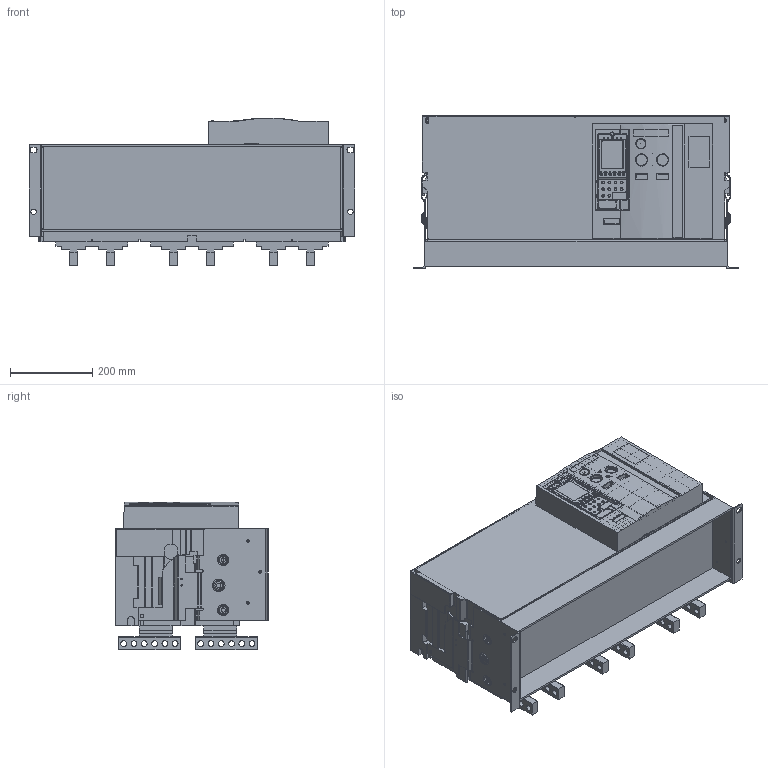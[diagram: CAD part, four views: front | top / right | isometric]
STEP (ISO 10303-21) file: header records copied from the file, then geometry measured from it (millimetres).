
FILE_DESCRIPTION (( 'STEP AP214' ), '1' );
FILE_NAME ('OptiMat A-S6-B-6300-3P-F-V.STEP', '2025-02-10T10:24:05', ( '' ), ( '' ), 'SwSTEP 2.0', 'SolidWorks 2018', '' );
FILE_SCHEMA (( 'AUTOMOTIVE_DESIGN' ));
Length unit declared in the file: millimetre
Products named in the file (1): OptiMat A-S6-B-6300-3P-F-V
Bounding box: 792 x 371.5 x 358.81 mm (x, y, z)
Volume: 58607586.5 mm3; surface area: 2413675.5 mm2
Topology: 8 solids, 115 shells, 5063 faces, 12976 edges, 8301 vertices
Faces by surface type: plane 2572, cylinder 1763, cone 342, bspline 175, torus 171, sphere 40
Entity records: 222654 total; most frequent: CARTESIAN_POINT 45400, DIRECTION 25767, ORIENTED_EDGE 25692, EDGE_CURVE 12846, AXIS2_PLACEMENT_3D 9018, VERTEX_POINT 8295, LINE 7731, VECTOR 7731
